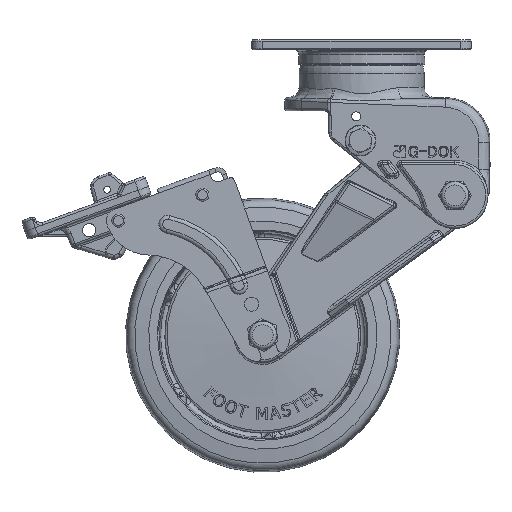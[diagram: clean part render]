
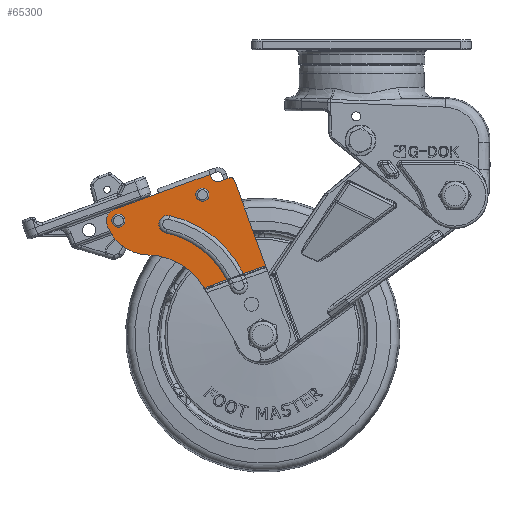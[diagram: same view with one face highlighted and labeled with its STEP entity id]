
A CAD part, front view. The second image highlights one B-rep face of the part: STEP entity #65300.
In plain terms, the highlighted planar face has unit normal (0, -1, 0).
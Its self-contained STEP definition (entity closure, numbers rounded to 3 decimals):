
#4080=FACE_BOUND('',#11915,.T.);
#4081=FACE_BOUND('',#11916,.T.);
#4610=PLANE('',#70458);
#8005=FACE_OUTER_BOUND('',#11914,.T.);
#11914=EDGE_LOOP('',(#47606,#47607,#47608,#47609,#47610,#47611,#47612,#47613,
#47614,#47615,#47616,#47617,#47618,#47619,#47620,#47621,#47622,#47623));
#11915=EDGE_LOOP('',(#47624));
#11916=EDGE_LOOP('',(#47625));
#15831=LINE('',#117117,#19785);
#15832=LINE('',#117119,#19786);
#15833=LINE('',#117123,#19787);
#15834=LINE('',#117127,#19788);
#15835=LINE('',#117129,#19789);
#15836=LINE('',#117131,#19790);
#15837=LINE('',#117135,#19791);
#15838=LINE('',#117141,#19792);
#15839=LINE('',#117142,#19793);
#19785=VECTOR('',#80668,10.);
#19786=VECTOR('',#80669,10.);
#19787=VECTOR('',#80672,10.);
#19788=VECTOR('',#80675,10.);
#19789=VECTOR('',#80676,10.);
#19790=VECTOR('',#80677,10.);
#19791=VECTOR('',#80680,10.);
#19792=VECTOR('',#80685,10.);
#19793=VECTOR('',#80686,10.);
#23705=CIRCLE('',#70444,2.25);
#23716=CIRCLE('',#70459,41.);
#23717=CIRCLE('',#70460,4.);
#23718=CIRCLE('',#70461,49.);
#23719=CIRCLE('',#70462,49.);
#23720=CIRCLE('',#70463,2.);
#23721=CIRCLE('',#70464,3.);
#23722=CIRCLE('',#70465,5.5);
#23723=CIRCLE('',#70466,20.);
#23724=CIRCLE('',#70467,30.);
#23725=CIRCLE('',#70468,2.25);
#27426=VERTEX_POINT('',#117062);
#27446=VERTEX_POINT('',#117107);
#27447=VERTEX_POINT('',#117108);
#27448=VERTEX_POINT('',#117110);
#27449=VERTEX_POINT('',#117112);
#27450=VERTEX_POINT('',#117114);
#27451=VERTEX_POINT('',#117116);
#27452=VERTEX_POINT('',#117118);
#27453=VERTEX_POINT('',#117120);
#27454=VERTEX_POINT('',#117122);
#27455=VERTEX_POINT('',#117124);
#27456=VERTEX_POINT('',#117126);
#27457=VERTEX_POINT('',#117128);
#27458=VERTEX_POINT('',#117130);
#27459=VERTEX_POINT('',#117132);
#27460=VERTEX_POINT('',#117134);
#27461=VERTEX_POINT('',#117136);
#27462=VERTEX_POINT('',#117138);
#27463=VERTEX_POINT('',#117140);
#27464=VERTEX_POINT('',#117143);
#34611=EDGE_CURVE('',#27426,#27426,#23705,.T.);
#34631=EDGE_CURVE('',#27446,#27447,#23716,.T.);
#34632=EDGE_CURVE('',#27447,#27448,#23717,.T.);
#34633=EDGE_CURVE('',#27448,#27449,#23718,.T.);
#34634=EDGE_CURVE('',#27449,#27450,#23719,.T.);
#34635=EDGE_CURVE('',#27451,#27450,#15831,.T.);
#34636=EDGE_CURVE('',#27451,#27452,#15832,.T.);
#34637=EDGE_CURVE('',#27452,#27453,#23720,.T.);
#34638=EDGE_CURVE('',#27453,#27454,#15833,.T.);
#34639=EDGE_CURVE('',#27454,#27455,#23721,.T.);
#34640=EDGE_CURVE('',#27455,#27456,#15834,.T.);
#34641=EDGE_CURVE('',#27457,#27456,#15835,.T.);
#34642=EDGE_CURVE('',#27457,#27458,#15836,.T.);
#34643=EDGE_CURVE('',#27458,#27459,#23722,.T.);
#34644=EDGE_CURVE('',#27459,#27460,#15837,.T.);
#34645=EDGE_CURVE('',#27460,#27461,#23723,.T.);
#34646=EDGE_CURVE('',#27461,#27462,#23724,.T.);
#34647=EDGE_CURVE('',#27462,#27463,#15838,.T.);
#34648=EDGE_CURVE('',#27446,#27463,#15839,.T.);
#34649=EDGE_CURVE('',#27464,#27464,#23725,.T.);
#47606=ORIENTED_EDGE('',*,*,#34631,.T.);
#47607=ORIENTED_EDGE('',*,*,#34632,.T.);
#47608=ORIENTED_EDGE('',*,*,#34633,.T.);
#47609=ORIENTED_EDGE('',*,*,#34634,.T.);
#47610=ORIENTED_EDGE('',*,*,#34635,.F.);
#47611=ORIENTED_EDGE('',*,*,#34636,.T.);
#47612=ORIENTED_EDGE('',*,*,#34637,.T.);
#47613=ORIENTED_EDGE('',*,*,#34638,.T.);
#47614=ORIENTED_EDGE('',*,*,#34639,.T.);
#47615=ORIENTED_EDGE('',*,*,#34640,.T.);
#47616=ORIENTED_EDGE('',*,*,#34641,.F.);
#47617=ORIENTED_EDGE('',*,*,#34642,.T.);
#47618=ORIENTED_EDGE('',*,*,#34643,.T.);
#47619=ORIENTED_EDGE('',*,*,#34644,.T.);
#47620=ORIENTED_EDGE('',*,*,#34645,.T.);
#47621=ORIENTED_EDGE('',*,*,#34646,.T.);
#47622=ORIENTED_EDGE('',*,*,#34647,.T.);
#47623=ORIENTED_EDGE('',*,*,#34648,.F.);
#47624=ORIENTED_EDGE('',*,*,#34649,.F.);
#47625=ORIENTED_EDGE('',*,*,#34611,.F.);
#65300=ADVANCED_FACE('',(#8005,#4080,#4081),#4610,.F.);
#70444=AXIS2_PLACEMENT_3D('',#117064,#80621,#80622);
#70458=AXIS2_PLACEMENT_3D('',#117106,#80658,#80659);
#70459=AXIS2_PLACEMENT_3D('',#117109,#80660,#80661);
#70460=AXIS2_PLACEMENT_3D('',#117111,#80662,#80663);
#70461=AXIS2_PLACEMENT_3D('',#117113,#80664,#80665);
#70462=AXIS2_PLACEMENT_3D('',#117115,#80666,#80667);
#70463=AXIS2_PLACEMENT_3D('',#117121,#80670,#80671);
#70464=AXIS2_PLACEMENT_3D('',#117125,#80673,#80674);
#70465=AXIS2_PLACEMENT_3D('',#117133,#80678,#80679);
#70466=AXIS2_PLACEMENT_3D('',#117137,#80681,#80682);
#70467=AXIS2_PLACEMENT_3D('',#117139,#80683,#80684);
#70468=AXIS2_PLACEMENT_3D('',#117144,#80687,#80688);
#80621=DIRECTION('center_axis',(0.,-1.,0.));
#80622=DIRECTION('ref_axis',(0.,0.,-1.));
#80658=DIRECTION('center_axis',(0.,1.,0.));
#80659=DIRECTION('ref_axis',(0.94,0.,0.342));
#80660=DIRECTION('center_axis',(0.,-1.,0.));
#80661=DIRECTION('ref_axis',(-0.934,0.,-0.356));
#80662=DIRECTION('center_axis',(0.,1.,0.));
#80663=DIRECTION('ref_axis',(0.211,0.,0.977));
#80664=DIRECTION('center_axis',(0.,1.,0.));
#80665=DIRECTION('ref_axis',(0.934,0.,0.356));
#80666=DIRECTION('center_axis',(0.,1.,0.));
#80667=DIRECTION('ref_axis',(0.934,0.,0.356));
#80668=DIRECTION('',(-0.94,0.,-0.342));
#80669=DIRECTION('',(-0.342,0.,0.94));
#80670=DIRECTION('center_axis',(0.,-1.,0.));
#80671=DIRECTION('ref_axis',(0.94,0.,0.342));
#80672=DIRECTION('',(-0.94,0.,-0.342));
#80673=DIRECTION('center_axis',(0.,1.,0.));
#80674=DIRECTION('ref_axis',(0.94,0.,0.342));
#80675=DIRECTION('',(-0.342,0.,0.94));
#80676=DIRECTION('',(0.94,0.,0.342));
#80677=DIRECTION('',(-0.94,0.,-0.342));
#80678=DIRECTION('center_axis',(0.,-1.,0.));
#80679=DIRECTION('ref_axis',(-0.342,0.,0.94));
#80680=DIRECTION('',(0.342,0.,-0.94));
#80681=DIRECTION('center_axis',(0.,-1.,0.));
#80682=DIRECTION('ref_axis',(-0.94,0.,-0.342));
#80683=DIRECTION('center_axis',(0.,1.,0.));
#80684=DIRECTION('ref_axis',(-0.866,0.,-0.5));
#80685=DIRECTION('',(0.5,0.,-0.866));
#80686=DIRECTION('',(-0.94,0.,-0.342));
#80687=DIRECTION('center_axis',(0.,-1.,0.));
#80688=DIRECTION('ref_axis',(0.,0.,-1.));
#117062=CARTESIAN_POINT('',(-110.031,-25.8,-84.431));
#117064=CARTESIAN_POINT('Origin',(-110.801,-25.8,-82.317));
#117106=CARTESIAN_POINT('Origin',(-86.254,-25.8,-40.117));
#117107=CARTESIAN_POINT('',(-61.367,-25.8,-109.21));
#117108=CARTESIAN_POINT('',(-89.196,-25.8,-87.831));
#117109=CARTESIAN_POINT('Origin',(-97.857,-25.8,-127.905));
#117110=CARTESIAN_POINT('',(-87.506,-25.8,-80.011));
#117111=CARTESIAN_POINT('Origin',(-88.351,-25.8,-83.921));
#117112=CARTESIAN_POINT('',(-53.883,-25.8,-106.288));
#117113=CARTESIAN_POINT('Origin',(-97.857,-25.8,-127.905));
#117114=CARTESIAN_POINT('',(-53.801,-25.8,-106.456));
#117115=CARTESIAN_POINT('Origin',(-97.857,-25.8,-127.905));
#117116=CARTESIAN_POINT('',(-43.752,-25.8,-102.799));
#117117=CARTESIAN_POINT('',(-58.083,-25.8,-108.015));
#117118=CARTESIAN_POINT('',(-57.836,-25.8,-64.104));
#117119=CARTESIAN_POINT('',(-35.337,-25.8,-125.919));
#117120=CARTESIAN_POINT('',(-60.399,-25.8,-62.908));
#117121=CARTESIAN_POINT('Origin',(-59.715,-25.8,-64.788));
#117122=CARTESIAN_POINT('',(-64.628,-25.8,-64.447));
#117123=CARTESIAN_POINT('',(-60.399,-25.8,-62.908));
#117124=CARTESIAN_POINT('',(-68.473,-25.8,-62.654));
#117125=CARTESIAN_POINT('Origin',(-65.654,-25.8,-61.628));
#117126=CARTESIAN_POINT('',(-68.986,-25.8,-61.245));
#117127=CARTESIAN_POINT('',(-68.473,-25.8,-62.654));
#117128=CARTESIAN_POINT('',(-92.479,-25.8,-69.795));
#117129=CARTESIAN_POINT('',(-83.082,-25.8,-66.375));
#117130=CARTESIAN_POINT('',(-112.682,-25.8,-77.149));
#117131=CARTESIAN_POINT('',(-68.986,-25.8,-61.245));
#117132=CARTESIAN_POINT('',(-115.969,-25.8,-84.198));
#117133=CARTESIAN_POINT('Origin',(-110.801,-25.8,-82.317));
#117134=CARTESIAN_POINT('',(-115.767,-25.8,-84.754));
#117135=CARTESIAN_POINT('',(-115.969,-25.8,-84.198));
#117136=CARTESIAN_POINT('',(-97.327,-25.8,-97.91));
#117137=CARTESIAN_POINT('Origin',(-96.973,-25.8,-77.913));
#117138=CARTESIAN_POINT('',(-71.876,-25.8,-112.905));
#117139=CARTESIAN_POINT('Origin',(-97.857,-25.8,-127.905));
#117140=CARTESIAN_POINT('',(-71.814,-25.8,-113.012));
#117141=CARTESIAN_POINT('',(-71.876,-25.8,-112.905));
#117142=CARTESIAN_POINT('',(-58.083,-25.8,-108.015));
#117143=CARTESIAN_POINT('',(-71.755,-25.8,-72.642));
#117144=CARTESIAN_POINT('Origin',(-72.525,-25.8,-70.528));
